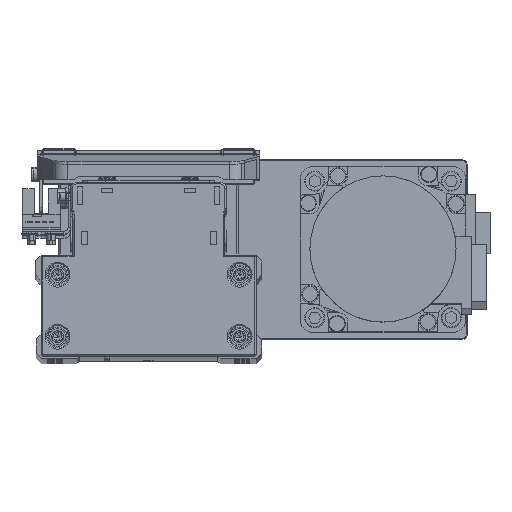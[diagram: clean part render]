
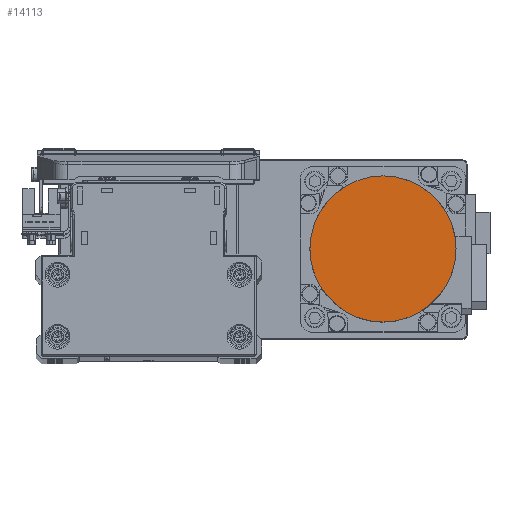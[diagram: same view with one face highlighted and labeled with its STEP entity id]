
A CAD part, top view. The second image highlights one B-rep face of the part: STEP entity #14113.
In plain terms, the highlighted planar face has unit normal (0, 0, 1) as drawn and (0, 0, -1) by its records, which use the part's own axes.
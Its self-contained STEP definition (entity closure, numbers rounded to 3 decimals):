
#893 = CARTESIAN_POINT ( 'NONE',  ( -26.5, 0., -109.7 ) ) ;
#4284 = CARTESIAN_POINT ( 'NONE',  ( 0., 0., -109.7 ) ) ;
#5407 = DIRECTION ( 'NONE',  ( 0., 0., 1. ) ) ;
#7173 = CARTESIAN_POINT ( 'NONE',  ( 26.5, 0., -109.7 ) ) ;
#8051 = EDGE_LOOP ( 'NONE', ( #40756, #37579 ) ) ;
#8304 = CIRCLE ( 'NONE', #31728, 26.5 ) ;
#12154 = DIRECTION ( 'NONE',  ( 1., 0., 0. ) ) ;
#13888 = EDGE_CURVE ( 'NONE', #22024, #40241, #8304, .T. ) ;
#14113 = ADVANCED_FACE ( 'NONE', ( #20230 ), #32991, .F. ) ;
#16297 = CIRCLE ( 'NONE', #21623, 26.5 ) ;
#16390 = AXIS2_PLACEMENT_3D ( 'NONE', #4284, #17087, #29841 ) ;
#17087 = DIRECTION ( 'NONE',  ( 0., 0., 1. ) ) ;
#18207 = DIRECTION ( 'NONE',  ( -1., 0., 0. ) ) ;
#20230 = FACE_OUTER_BOUND ( 'NONE', #8051, .T. ) ;
#21623 = AXIS2_PLACEMENT_3D ( 'NONE', #28052, #40829, #12154 ) ;
#22024 = VERTEX_POINT ( 'NONE', #893 ) ;
#25989 = EDGE_CURVE ( 'NONE', #40241, #22024, #16297, .T. ) ;
#28052 = CARTESIAN_POINT ( 'NONE',  ( 0., 0., -109.7 ) ) ;
#29841 = DIRECTION ( 'NONE',  ( 1., 0., 0. ) ) ;
#31728 = AXIS2_PLACEMENT_3D ( 'NONE', #34093, #5407, #18207 ) ;
#32991 = PLANE ( 'NONE',  #16390 ) ;
#34093 = CARTESIAN_POINT ( 'NONE',  ( 0., 0., -109.7 ) ) ;
#37579 = ORIENTED_EDGE ( 'NONE', *, *, #25989, .F. ) ;
#40241 = VERTEX_POINT ( 'NONE', #7173 ) ;
#40756 = ORIENTED_EDGE ( 'NONE', *, *, #13888, .F. ) ;
#40829 = DIRECTION ( 'NONE',  ( 0., 0., 1. ) ) ;
